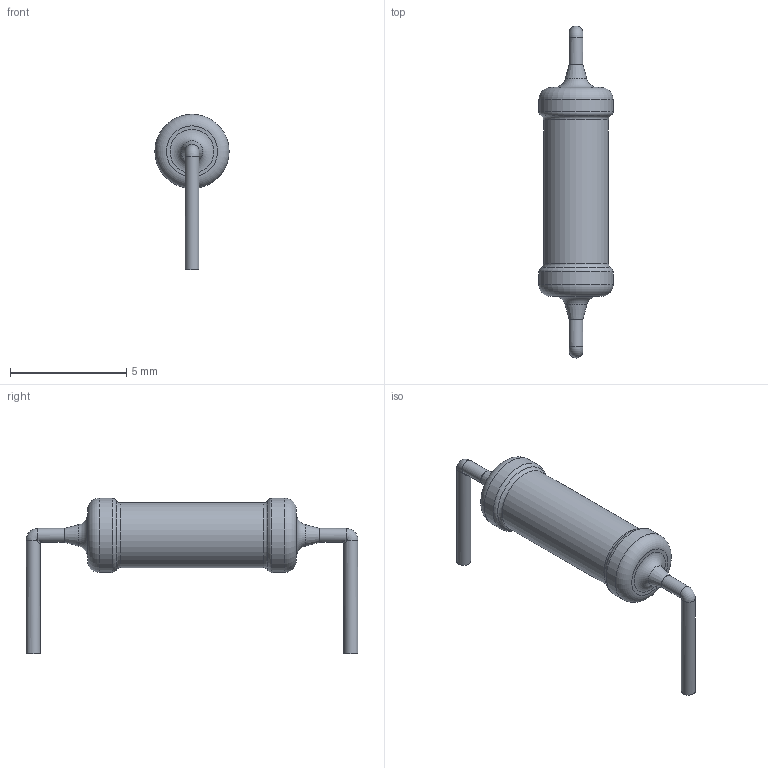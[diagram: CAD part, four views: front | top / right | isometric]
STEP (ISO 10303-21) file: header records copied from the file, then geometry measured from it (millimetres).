
FILE_DESCRIPTION(('STEP AP203'), '1');
FILE_NAME('Ð1-154_2', '', ('UNSPECIFIED'), ('UNSPECIFIED'), 'ASCON STEP Converter 1.6', 'ASCON Math Kernel', '');
FILE_SCHEMA(('CONFIG_CONTROL_DESIGN'));
Length unit declared in the file: millimetre
Bounding box: 3.2 x 14.3 x 6.7 mm (x, y, z)
Volume: 64 mm3; surface area: 123.8 mm2
Topology: 3 solids, 3 shells, 31 faces, 71 edges, 48 vertices
Faces by surface type: torus 10, cylinder 9, plane 8, cone 2, bspline 2
Full cylindrical faces by diameter (mm): 0.6 x6, 2.8 x1, 3.2 x2
Entity records: 1350 total; most frequent: CARTESIAN_POINT 402, DIRECTION 140, ORIENTED_EDGE 104, AXIS2_PLACEMENT_3D 70, EDGE_LOOP 52, EDGE_CURVE 52, VERTEX_POINT 48, FACE_BOUND 42
